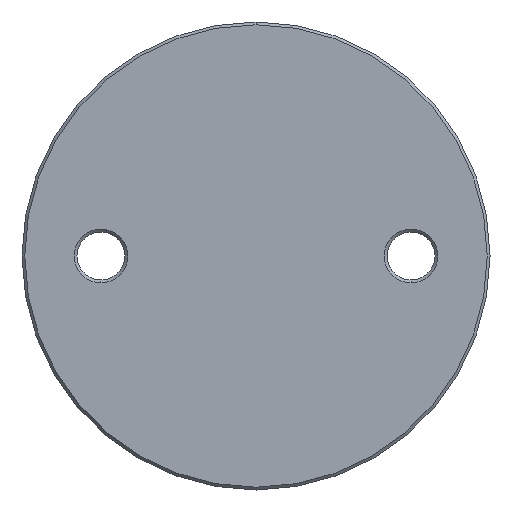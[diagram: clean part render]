
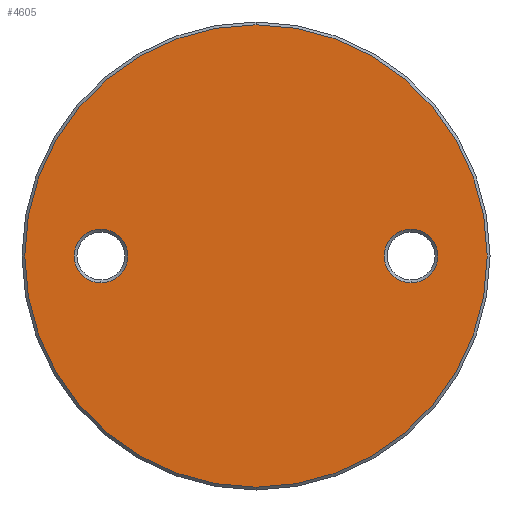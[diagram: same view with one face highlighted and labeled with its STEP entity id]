
A CAD part, front view. The second image highlights one B-rep face of the part: STEP entity #4605.
In plain terms, the highlighted planar face has unit normal (0, -1, 0).
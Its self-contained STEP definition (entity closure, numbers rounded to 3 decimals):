
#18 = ORIENTED_EDGE ( 'NONE', *, *, #4131, .T. ) ;
#78 = AXIS2_PLACEMENT_3D ( 'NONE', #2357, #1948, #4801 ) ;
#128 = DIRECTION ( 'NONE',  ( 0., 0., -1. ) ) ;
#147 = FACE_BOUND ( 'NONE', #3292, .T. ) ;
#406 = EDGE_CURVE ( 'NONE', #476, #1947, #3996, .T. ) ;
#464 = AXIS2_PLACEMENT_3D ( 'NONE', #3698, #4086, #1283 ) ;
#476 = VERTEX_POINT ( 'NONE', #2207 ) ;
#498 = VERTEX_POINT ( 'NONE', #4322 ) ;
#549 = AXIS2_PLACEMENT_3D ( 'NONE', #5054, #977, #5027 ) ;
#571 = CIRCLE ( 'NONE', #78, 4.75 ) ;
#592 = FACE_BOUND ( 'NONE', #1689, .T. ) ;
#593 = CARTESIAN_POINT ( 'NONE',  ( 0., -3., 41.5 ) ) ;
#663 = CARTESIAN_POINT ( 'NONE',  ( 27.5, -3., 0. ) ) ;
#739 = EDGE_CURVE ( 'NONE', #4510, #4143, #1888, .T. ) ;
#776 = EDGE_CURVE ( 'NONE', #4143, #4510, #1197, .T. ) ;
#794 = AXIS2_PLACEMENT_3D ( 'NONE', #663, #4702, #4651 ) ;
#834 = AXIS2_PLACEMENT_3D ( 'NONE', #593, #3016, #128 ) ;
#977 = DIRECTION ( 'NONE',  ( 0., 1., 0. ) ) ;
#1197 = CIRCLE ( 'NONE', #1291, 41. ) ;
#1258 = VERTEX_POINT ( 'NONE', #3881 ) ;
#1283 = DIRECTION ( 'NONE',  ( 0., 0., -1. ) ) ;
#1291 = AXIS2_PLACEMENT_3D ( 'NONE', #4984, #4544, #3735 ) ;
#1387 = AXIS2_PLACEMENT_3D ( 'NONE', #3188, #4838, #5246 ) ;
#1438 = EDGE_CURVE ( 'NONE', #1258, #498, #571, .T. ) ;
#1439 = ORIENTED_EDGE ( 'NONE', *, *, #1438, .T. ) ;
#1639 = EDGE_LOOP ( 'NONE', ( #2356, #3782 ) ) ;
#1689 = EDGE_LOOP ( 'NONE', ( #1439, #4242 ) ) ;
#1711 = CARTESIAN_POINT ( 'NONE',  ( 0., -3., -41. ) ) ;
#1888 = CIRCLE ( 'NONE', #1387, 41. ) ;
#1947 = VERTEX_POINT ( 'NONE', #3172 ) ;
#1948 = DIRECTION ( 'NONE',  ( 0., 1., 0. ) ) ;
#1999 = CIRCLE ( 'NONE', #464, 4.75 ) ;
#2207 = CARTESIAN_POINT ( 'NONE',  ( 27.5, -3., 4.75 ) ) ;
#2356 = ORIENTED_EDGE ( 'NONE', *, *, #776, .T. ) ;
#2357 = CARTESIAN_POINT ( 'NONE',  ( -27.5, -3., 0. ) ) ;
#2365 = CIRCLE ( 'NONE', #794, 4.75 ) ;
#3004 = PLANE ( 'NONE',  #834 ) ;
#3016 = DIRECTION ( 'NONE',  ( 0., -1., 0. ) ) ;
#3029 = EDGE_CURVE ( 'NONE', #498, #1258, #1999, .T. ) ;
#3172 = CARTESIAN_POINT ( 'NONE',  ( 27.5, -3., -4.75 ) ) ;
#3188 = CARTESIAN_POINT ( 'NONE',  ( 0., -3., 0. ) ) ;
#3292 = EDGE_LOOP ( 'NONE', ( #18, #3882 ) ) ;
#3698 = CARTESIAN_POINT ( 'NONE',  ( -27.5, -3., 0. ) ) ;
#3735 = DIRECTION ( 'NONE',  ( 0., 0., -1. ) ) ;
#3782 = ORIENTED_EDGE ( 'NONE', *, *, #739, .T. ) ;
#3881 = CARTESIAN_POINT ( 'NONE',  ( -27.5, -3., -4.75 ) ) ;
#3882 = ORIENTED_EDGE ( 'NONE', *, *, #406, .T. ) ;
#3996 = CIRCLE ( 'NONE', #549, 4.75 ) ;
#4086 = DIRECTION ( 'NONE',  ( 0., 1., 0. ) ) ;
#4131 = EDGE_CURVE ( 'NONE', #1947, #476, #2365, .T. ) ;
#4143 = VERTEX_POINT ( 'NONE', #5061 ) ;
#4242 = ORIENTED_EDGE ( 'NONE', *, *, #3029, .T. ) ;
#4265 = FACE_OUTER_BOUND ( 'NONE', #1639, .T. ) ;
#4322 = CARTESIAN_POINT ( 'NONE',  ( -27.5, -3., 4.75 ) ) ;
#4510 = VERTEX_POINT ( 'NONE', #1711 ) ;
#4544 = DIRECTION ( 'NONE',  ( 0., -1., 0. ) ) ;
#4605 = ADVANCED_FACE ( 'NONE', ( #147, #592, #4265 ), #3004, .T. ) ;
#4651 = DIRECTION ( 'NONE',  ( 0., 0., -1. ) ) ;
#4702 = DIRECTION ( 'NONE',  ( 0., 1., 0. ) ) ;
#4801 = DIRECTION ( 'NONE',  ( 0., 0., -1. ) ) ;
#4838 = DIRECTION ( 'NONE',  ( 0., -1., 0. ) ) ;
#4984 = CARTESIAN_POINT ( 'NONE',  ( 0., -3., 0. ) ) ;
#5027 = DIRECTION ( 'NONE',  ( 0., 0., -1. ) ) ;
#5054 = CARTESIAN_POINT ( 'NONE',  ( 27.5, -3., 0. ) ) ;
#5061 = CARTESIAN_POINT ( 'NONE',  ( 0., -3., 41. ) ) ;
#5246 = DIRECTION ( 'NONE',  ( 0., 0., -1. ) ) ;
